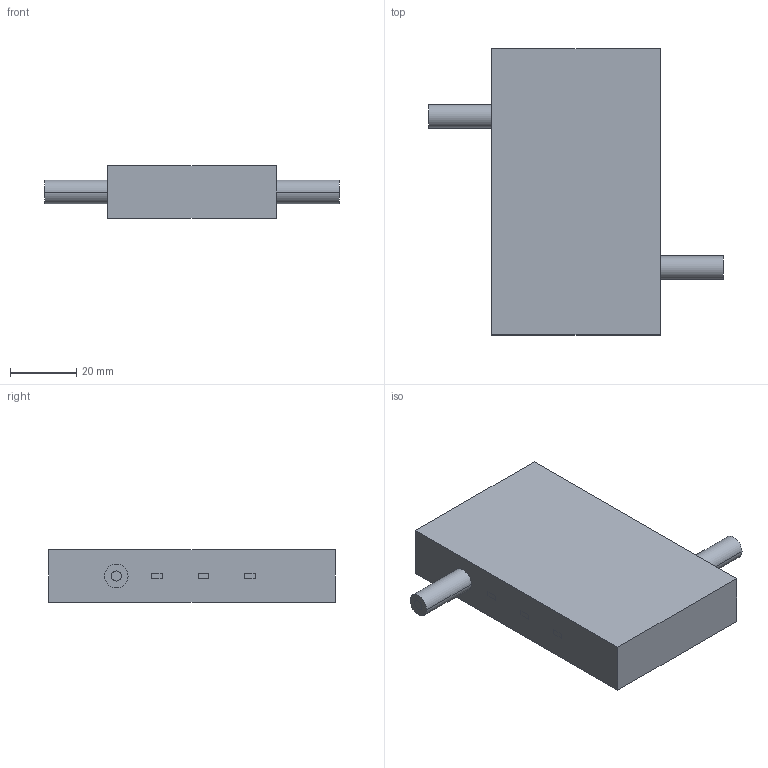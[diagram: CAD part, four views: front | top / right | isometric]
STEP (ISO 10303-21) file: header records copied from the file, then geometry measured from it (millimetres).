
FILE_DESCRIPTION(('STEP AP214'),'1');
FILE_NAME('Filter.step','2023-02-06T06:41:32',(' '),('ANSOFT Corporation'),'Spatial InterOp 3D',' ',' ');
FILE_SCHEMA(('AUTOMOTIVE_DESIGN { 1 0 10303 214 1 1 1 1 }'));
Length unit declared in the file: inch
Products named in the file (1): air
Bounding box: 88.9 x 86.36 x 15.88 mm (x, y, z)
Volume: 73250.7 mm3; surface area: 18128.2 mm2
Topology: 15 solids, 15 shells, 78 faces, 144 edges, 96 vertices
Faces by surface type: plane 66, cylinder 12
Entity records: 2104 total; most frequent: DIRECTION 354, CARTESIAN_POINT 333, ORIENTED_EDGE 288, EDGE_CURVE 144, LINE 120, VECTOR 120, AXIS2_PLACEMENT_3D 117, VERTEX_POINT 96
